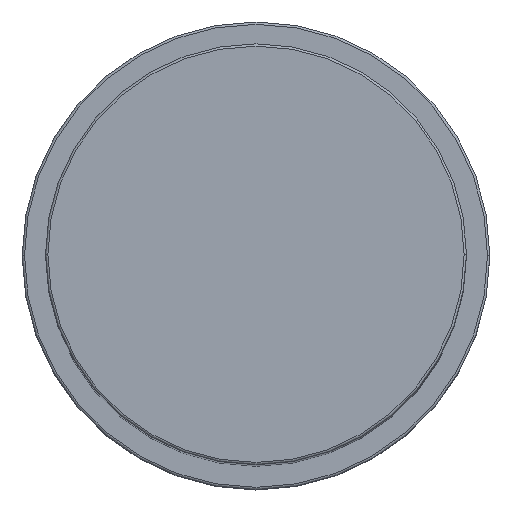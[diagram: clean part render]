
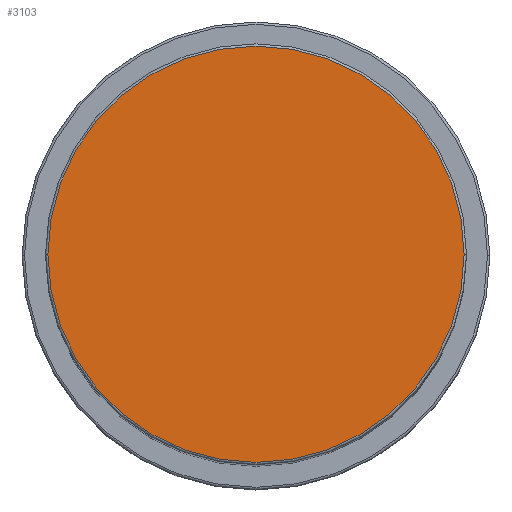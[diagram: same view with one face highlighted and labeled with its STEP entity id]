
A CAD part, top view. The second image highlights one B-rep face of the part: STEP entity #3103.
In plain terms, the highlighted planar face has unit normal (0, 0, 1).
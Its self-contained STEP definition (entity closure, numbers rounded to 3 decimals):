
#329 = AXIS2_PLACEMENT_3D ( 'NONE', #3937, #738, #3914 ) ;
#354 = EDGE_LOOP ( 'NONE', ( #4744, #1586 ) ) ;
#738 = DIRECTION ( 'NONE',  ( 0., 0., 1. ) ) ;
#925 = CARTESIAN_POINT ( 'NONE',  ( 44.5, 0., 209. ) ) ;
#1586 = ORIENTED_EDGE ( 'NONE', *, *, #4155, .T. ) ;
#1805 = EDGE_CURVE ( 'NONE', #4125, #4421, #1908, .T. ) ;
#1871 = AXIS2_PLACEMENT_3D ( 'NONE', #3669, #2584, #3168 ) ;
#1908 = CIRCLE ( 'NONE', #1871, 44.5 ) ;
#2584 = DIRECTION ( 'NONE',  ( 0., 0., 1. ) ) ;
#3103 = ADVANCED_FACE ( 'NONE', ( #3478 ), #4051, .T. ) ;
#3168 = DIRECTION ( 'NONE',  ( 1., 0., 0. ) ) ;
#3196 = CARTESIAN_POINT ( 'NONE',  ( -44.5, 0., 209. ) ) ;
#3478 = FACE_OUTER_BOUND ( 'NONE', #354, .T. ) ;
#3669 = CARTESIAN_POINT ( 'NONE',  ( 0., 0., 209. ) ) ;
#3914 = DIRECTION ( 'NONE',  ( 1., 0., 0. ) ) ;
#3937 = CARTESIAN_POINT ( 'NONE',  ( 0., 0., 209. ) ) ;
#4051 = PLANE ( 'NONE',  #329 ) ;
#4125 = VERTEX_POINT ( 'NONE', #925 ) ;
#4155 = EDGE_CURVE ( 'NONE', #4421, #4125, #6456, .T. ) ;
#4421 = VERTEX_POINT ( 'NONE', #3196 ) ;
#4511 = DIRECTION ( 'NONE',  ( 1., 0., 0. ) ) ;
#4556 = AXIS2_PLACEMENT_3D ( 'NONE', #5620, #6164, #4511 ) ;
#4744 = ORIENTED_EDGE ( 'NONE', *, *, #1805, .T. ) ;
#5620 = CARTESIAN_POINT ( 'NONE',  ( 0., 0., 209. ) ) ;
#6164 = DIRECTION ( 'NONE',  ( 0., 0., 1. ) ) ;
#6456 = CIRCLE ( 'NONE', #4556, 44.5 ) ;
